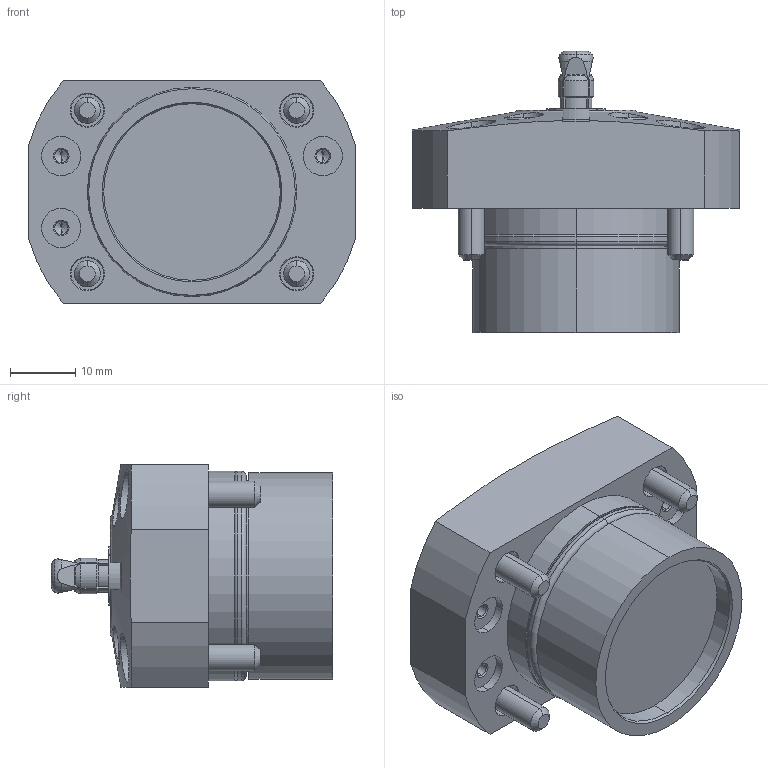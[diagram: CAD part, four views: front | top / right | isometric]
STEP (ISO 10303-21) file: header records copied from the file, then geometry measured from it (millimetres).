
FILE_DESCRIPTION (( 'STEP AP203' ), '1' );
FILE_NAME ('SFH1060.STEP', '2010-11-01T23:23:08', ( ' ' ), ( ' ' ), 'SwSTEP 2.0', 'SolidWorks 2010', '' );
FILE_SCHEMA (( 'CONFIG_CONTROL_DESIGN' ));
Length unit declared in the file: millimetre
Products named in the file (7): SFH1_钾堇轤O剌皋晅; SFH1060; φ6_ｽﾘｰﾌﾞ; SFH1060_套菁轤礁诎蔬晅; 冇6_郫霓; 6妏寠晅无倌_M3_10; 6妏寠晅无倌_M4_16
Assembly tree (12 placements, depth 2):
  SFH1060
    冇6_郫霓
    φ6_ｽﾘｰﾌﾞ
    6妏寠晅无倌_M3_10  x4
    6妏寠晅无倌_M4_16  x4
    SFH1_钾堇轤O剌皋晅
    SFH1060_套菁轤礁诎蔬晅
Bounding box: 50 x 43 x 34 mm (x, y, z)
Volume: 34416.7 mm3; surface area: 15208.8 mm2
Topology: 16 solids, 16 shells, 486 faces, 995 edges, 552 vertices
Faces by surface type: plane 191, cone 156, cylinder 122, torus 17
Entity records: 9855 total; most frequent: CARTESIAN_POINT 2292, DIRECTION 1478, ORIENTED_EDGE 1318, EDGE_CURVE 659, AXIS2_PLACEMENT_3D 610, VERTEX_POINT 402, EDGE_LOOP 341, FACE_OUTER_BOUND 300
